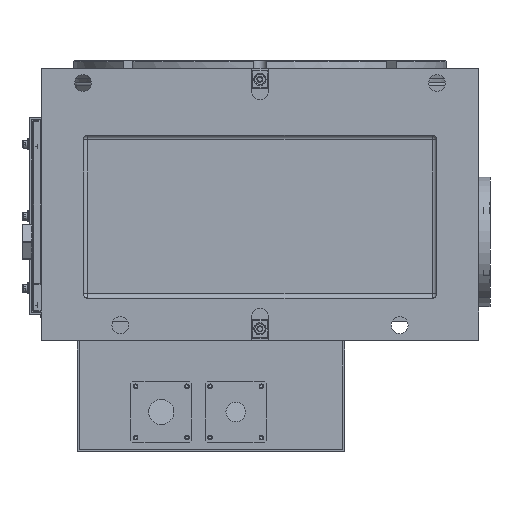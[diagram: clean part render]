
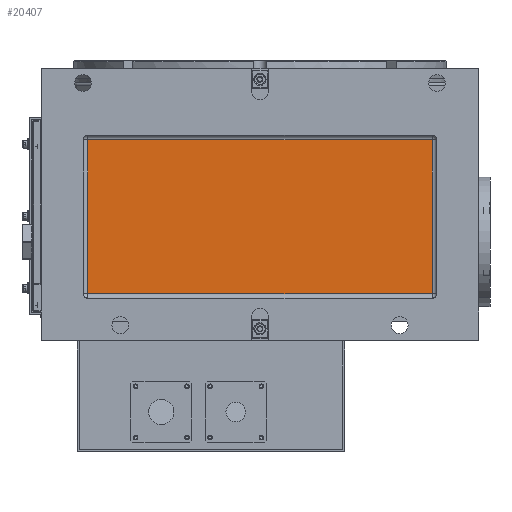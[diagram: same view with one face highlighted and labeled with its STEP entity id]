
A CAD part, front view. The second image highlights one B-rep face of the part: STEP entity #20407.
In plain terms, the highlighted planar face has unit normal (0, -1, 0).
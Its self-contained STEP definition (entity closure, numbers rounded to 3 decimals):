
#1372 = EDGE_CURVE ( 'NONE', #36647, #9274, #31693, .T. ) ;
#2280 = CARTESIAN_POINT ( 'NONE',  ( -185., -248., 109.5 ) ) ;
#4535 = DIRECTION ( 'NONE',  ( 0., 0., 1. ) ) ;
#4967 = CARTESIAN_POINT ( 'NONE',  ( -185., -248., -55.5 ) ) ;
#6087 = PLANE ( 'NONE',  #27150 ) ;
#7005 = DIRECTION ( 'NONE',  ( 0., 0., -1. ) ) ;
#7892 = LINE ( 'NONE', #21576, #20110 ) ;
#9274 = VERTEX_POINT ( 'NONE', #4967 ) ;
#9907 = CARTESIAN_POINT ( 'NONE',  ( -190., -248., -55.5 ) ) ;
#11022 = CARTESIAN_POINT ( 'NONE',  ( -185., -248., -60.5 ) ) ;
#11083 = EDGE_LOOP ( 'NONE', ( #24769, #23832, #15345, #32130 ) ) ;
#11711 = CARTESIAN_POINT ( 'NONE',  ( -190., -248., 109.5 ) ) ;
#13933 = LINE ( 'NONE', #9907, #17058 ) ;
#15345 = ORIENTED_EDGE ( 'NONE', *, *, #1372, .T. ) ;
#16649 = CARTESIAN_POINT ( 'NONE',  ( 185., -248., -55.5 ) ) ;
#16736 = EDGE_CURVE ( 'NONE', #39712, #43155, #7892, .T. ) ;
#17058 = VECTOR ( 'NONE', #27623, 1000. ) ;
#18872 = DIRECTION ( 'NONE',  ( 0., -1., 0. ) ) ;
#20110 = VECTOR ( 'NONE', #4535, 1000. ) ;
#20407 = ADVANCED_FACE ( 'NONE', ( #26062 ), #6087, .T. ) ;
#21367 = DIRECTION ( 'NONE',  ( -1., 0., 0. ) ) ;
#21443 = VECTOR ( 'NONE', #7005, 1000. ) ;
#21576 = CARTESIAN_POINT ( 'NONE',  ( 185., -248., -60.5 ) ) ;
#21591 = LINE ( 'NONE', #11711, #21930 ) ;
#21930 = VECTOR ( 'NONE', #21367, 1000. ) ;
#23832 = ORIENTED_EDGE ( 'NONE', *, *, #25559, .T. ) ;
#24769 = ORIENTED_EDGE ( 'NONE', *, *, #16736, .T. ) ;
#25559 = EDGE_CURVE ( 'NONE', #43155, #36647, #21591, .T. ) ;
#26062 = FACE_OUTER_BOUND ( 'NONE', #11083, .T. ) ;
#26992 = EDGE_CURVE ( 'NONE', #9274, #39712, #13933, .T. ) ;
#27150 = AXIS2_PLACEMENT_3D ( 'NONE', #33478, #18872, #32588 ) ;
#27623 = DIRECTION ( 'NONE',  ( 1., 0., 0. ) ) ;
#31693 = LINE ( 'NONE', #11022, #21443 ) ;
#32130 = ORIENTED_EDGE ( 'NONE', *, *, #26992, .T. ) ;
#32588 = DIRECTION ( 'NONE',  ( 0., 0., -1. ) ) ;
#33478 = CARTESIAN_POINT ( 'NONE',  ( -190., -248., -60.5 ) ) ;
#36647 = VERTEX_POINT ( 'NONE', #2280 ) ;
#39712 = VERTEX_POINT ( 'NONE', #16649 ) ;
#43155 = VERTEX_POINT ( 'NONE', #44017 ) ;
#44017 = CARTESIAN_POINT ( 'NONE',  ( 185., -248., 109.5 ) ) ;
